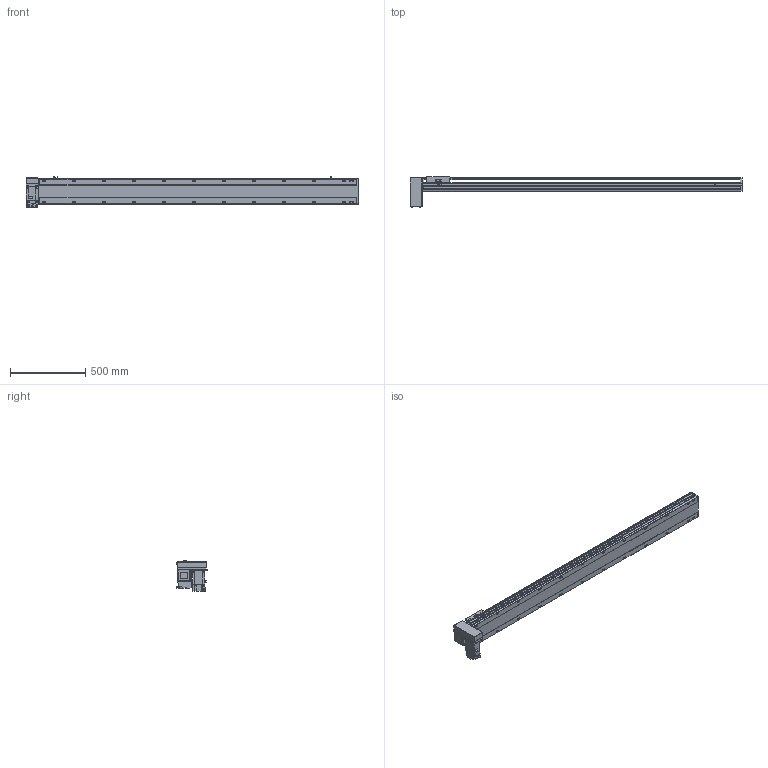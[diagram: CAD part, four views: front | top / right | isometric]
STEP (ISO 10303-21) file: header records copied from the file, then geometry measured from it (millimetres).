
FILE_DESCRIPTION( ( 'STEP AP214' ), '1' );
FILE_NAME( 'x:/temp/worker_5/temp/exporttempdir_3988_38_bYRhL/format_0/PBS170-P40-S1850-RD-T75-C1-N(0).stp', '2022-06-08T05:36:49', ( 'License CC BY-ND 4.0' ), ( 'CADENAS' ), ' ', 'PARTsolutions', ' ' );
FILE_SCHEMA( ( 'AUTOMOTIVE_DESIGN { 1 0 10303 214 1 1 1 1 }' ) );
Length unit declared in the file: millimetre
Products named in the file (7): PBS170-P40-S1850-RD-T75-C1-N(0); _PBS170-S1850()_body; _PBS170T-RD_motors; _T75-p1; _PBS170_sliser; _PBS170_plant; _PBS170_sensor
Assembly tree (8 placements, depth 2):
  PBS170-P40-S1850-RD-T75-C1-N(0)
    _PBS170-S1850()_body
    _PBS170T-RD_motors
    _T75-p1
    _PBS170_sliser
    _PBS170_plant
    _PBS170_sensor  x3
Bounding box: 2213 x 201 x 205.3 mm (x, y, z)
Volume: 17044187.3 mm3; surface area: 2171960.1 mm2
Topology: 8 solids, 8 shells, 1146 faces, 3035 edges, 1978 vertices
Faces by surface type: plane 711, cylinder 371, cone 54, sphere 8, torus 2
Full cylindrical faces by diameter (mm): 3.242 x4, 4 x2, 4.4 x4, 4.5 x6, 4.917 x4, 6 x9, 6.647 x32, 7 x2, 7.5 x4, 8 x8, 8.5 x24, 10 x4, 10.5 x24, 11 x2, 30 x2, 40 x1, 70 x1
Entity records: 42308 total; most frequent: CARTESIAN_POINT 6893, DIRECTION 5580, ORIENTED_EDGE 5268, EDGE_CURVE 2634, AXIS2_PLACEMENT_3D 1957, VERTEX_POINT 1826, LINE 1666, VECTOR 1666
